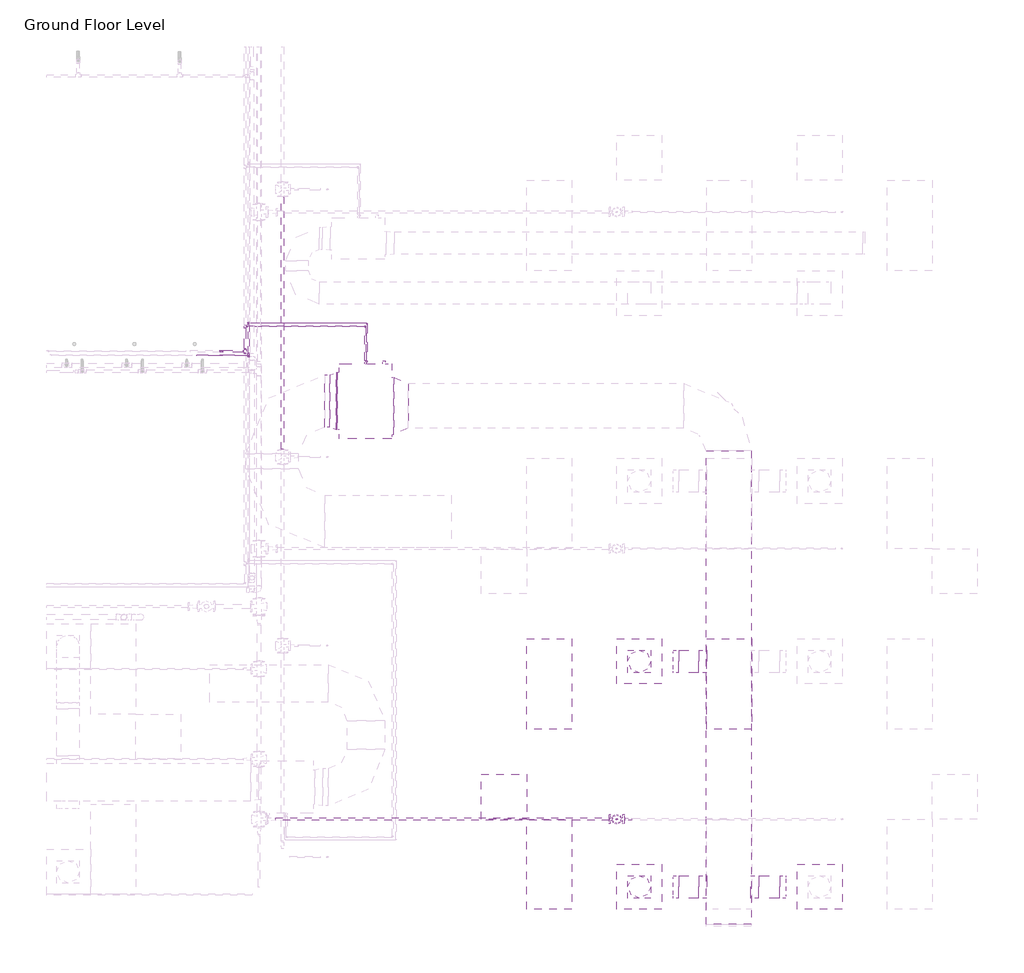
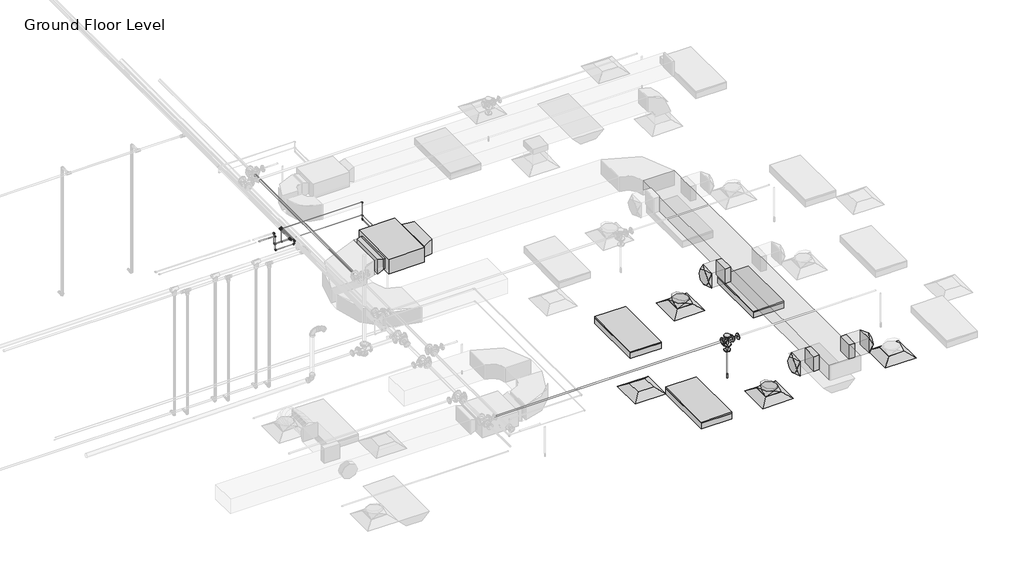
# One storey, part 18 of 74: 22 pipe fittings, 17 pipe segments, 10 duct fittings, 8 duct segments, 4 air terminals, 3 light fixtures, 1 fire suppression terminal, 1 proxy.
"""IFC4 building model written with IfcOpenShell, lengths in millimetres."""

from ifc_helpers import new_model, si_unit, point, frame, frame_2d, origin, place, context, project, spatial, polyline, circle_curve, ellipse_curve, trimmed, segment, composite_curve, outline, extrude, transform, mapped, element, save
from ifc_brep_helpers import plane_surface, cylinder_surface, advanced_brep
from components import m_return_diffuser_600_x_600_face_300_x_300_connection_ff221211, fcu_daikin_iu_7e1df382, m_rectangular_takeoff_standard_cb0ccb98, m_rectangular_takeoff_standard_2be5eba1, m_rectangular_transition_angle_45_degree_93a96896, m_rectangular_transition_angle_45_degree_f6cc18ae, m_rectangular_to_round_transition_angle_45_degree_641efff0, m_sprinkler_dry_pendent_hosted_15_mm_dry_pendent_9bda8e11, m_troffer_light_parabolic_rectangular1_0600x1200mm_4_lamp_86473d4a, m_elbow_generic_standard_a088f956, m_elbow_generic_standard_2a704253, m_elbow_generic_standard_73005802, m_elbow_generic_standard_bb5ffebe, m_reducer_flanged_cs_class_150_standard_ccf252ad, m_tee_generic_standard_5b2ed4d4, m_tee_generic_standard_cdc1cff5, m_tee_generic_standard_5078887e, m_tee_generic_standard_bbfc025c, m_tee_round_base_flanged_cs_class_150_standard_7e5987a1, m_transition_generic_standard_6dc712c0, m_transition_generic_standard_2351da66, m_transition_generic_standard_44e35838, m_transition_generic_standard_22c7c9f4, m_transition_generic_standard_2d362458

model = new_model("IFC4")

# Units and contexts
model_context = context("Model", 3, world=origin())
ifc_project = project(units=[si_unit("LENGTHUNIT", "METRE", prefix="MILLI")], contexts=[model_context])

# Site, building, storey
site = spatial("IfcSite", under=ifc_project)
building = spatial("IfcBuilding", under=site)
storey = spatial("IfcBuildingStorey", under=building, Name="Ground Floor Level", Elevation=900.0)

# Air terminals
placement = place(None, origin())
m_return_diffuser_600_x_600_face_300_x_300_connection_shape = m_return_diffuser_600_x_600_face_300_x_300_connection_ff221211(model_context)
element("IfcAirTerminal", 1, ObjectType="M_Return Diffuser : 600 x 600 Face 300 x 300 Connection", at=placement, inside=storey, context=model_context, shape_type="MappedRepresentation", body=[
    mapped(m_return_diffuser_600_x_600_face_300_x_300_connection_shape, transform((8943.0482736, -38564.7846466, 3650.0), x_axis=(1.0, 0.0, 0.0), y_axis=(0.0, 1.0, 0.0), z_axis=(0.0, 0.0, 1.0))),
])
element("IfcAirTerminal", 2, ObjectType="M_Supply Diffuser : 600 x 600 Face 300 x 300 Connection", at=placement, inside=storey, context=model_context, shape_type="MappedRepresentation", body=[
    mapped(m_return_diffuser_600_x_600_face_300_x_300_connection_shape, transform((10742.7672395, -39764.7846466, 3650.0), x_axis=(1.0, 0.0, 0.0), y_axis=(0.0, 1.0, 0.0), z_axis=(0.0, 0.0, 1.0))),
])
element("IfcAirTerminal", 3, ObjectType="M_Supply Diffuser : 600 x 600 Face 300 x 300 Connection", at=placement, inside=storey, context=model_context, shape_type="MappedRepresentation", body=[
    mapped(m_return_diffuser_600_x_600_face_300_x_300_connection_shape, transform((13142.7672395, -39764.7846466, 3650.0), x_axis=(1.0, 0.0, 0.0), y_axis=(0.0, 1.0, 0.0), z_axis=(0.0, 0.0, 1.0))),
])
element("IfcAirTerminal", 4, ObjectType="M_Supply Diffuser : 600 x 600 Face 300 x 300 Connection", at=placement, inside=storey, context=model_context, shape_type="MappedRepresentation", body=[
    mapped(m_return_diffuser_600_x_600_face_300_x_300_connection_shape, transform((10742.7672395, -36764.7846466, 3650.0), x_axis=(1.0, 0.0, 0.0), y_axis=(0.0, 1.0, 0.0), z_axis=(0.0, 0.0, 1.0))),
])

# Proxy
fcu_daikin_iu_shape = fcu_daikin_iu_7e1df382(model_context)
element("IfcBuildingElementProxy", 5, Name="FCU-DAIKIN IU : 7.2kW, 230V/50Hz/1Ph", ObjectType="FCU-DAIKIN IU : 7.2kW, 230V/50Hz/1Ph", at=placement, inside=storey, context=model_context, shape_type="MappedRepresentation", body=[
    mapped(fcu_daikin_iu_shape, transform((7098.4644074, -33301.2726336, 3934.0875), x_axis=(0.0, 1.0, 0.0), y_axis=(-1.0, 0.0, 0.0), z_axis=(0.0, 0.0, 1.0))),
])

# Duct fittings
m_rectangular_takeoff_standard_shape = m_rectangular_takeoff_standard_cb0ccb98(model_context)
element("IfcDuctFitting", 6, ObjectType="M_Rectangular Takeoff : Standard", at=placement, inside=storey, context=model_context, shape_type="MappedRepresentation", body=[
    mapped(m_rectangular_takeoff_standard_shape, transform((12233.8644074, -39764.7846466, 4099.9875), x_axis=(1.0, 0.0, 0.0), y_axis=(0.0, -1.0, 0.0), z_axis=(0.0, 0.0, -1.0))),
])
m_rectangular_takeoff_standard_2_shape = m_rectangular_takeoff_standard_2be5eba1(model_context)
element("IfcDuctFitting", 7, ObjectType="M_Rectangular Takeoff : Standard", at=placement, inside=storey, context=model_context, shape_type="MappedRepresentation", body=[
    mapped(m_rectangular_takeoff_standard_2_shape, transform((11633.8644074, -36764.7846466, 4099.9875), x_axis=(-1.0, 0.0, 0.0), y_axis=(0.0, 1.0, 0.0), z_axis=(0.0, 0.0, -1.0))),
])
element("IfcDuctFitting", 8, ObjectType="M_Rectangular Takeoff : Standard", at=placement, inside=storey, context=model_context, shape_type="MappedRepresentation", body=[
    mapped(m_rectangular_takeoff_standard_2_shape, transform((11633.8644074, -39764.7846466, 4099.9875), x_axis=(-1.0, 0.0, 0.0), y_axis=(0.0, 1.0, 0.0), z_axis=(0.0, 0.0, -1.0))),
])
m_rectangular_transition_angle_45_degree_shape = m_rectangular_transition_angle_45_degree_93a96896(model_context)
element("IfcDuctFitting", 9, ObjectType="M_Rectangular Transition - Angle : 45 Degree", at=placement, inside=storey, context=model_context, shape_type="MappedRepresentation", body=[
    mapped(m_rectangular_transition_angle_45_degree_shape, transform((7473.8644074, -33364.7726336, 4100.0), x_axis=(1.0, 0.0, 0.0), y_axis=(0.0, 1.0, 0.0), z_axis=(0.0, 0.0, 1.0))),
])
m_rectangular_transition_angle_45_degree_2_shape = m_rectangular_transition_angle_45_degree_f6cc18ae(model_context)
element("IfcDuctFitting", 10, ObjectType="M_Rectangular Transition - Angle : 45 Degree", at=placement, inside=storey, context=model_context, shape_type="MappedRepresentation", body=[
    mapped(m_rectangular_transition_angle_45_degree_2_shape, transform((6711.4162578, -33301.2726336, 4075.2908943), x_axis=(-0.9999999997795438, 0.0, 2.0997916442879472e-05), y_axis=(0.0, -1.0, 0.0), z_axis=(2.0997916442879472e-05, 0.0, 0.9999999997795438))),
])
m_rectangular_to_round_transition_angle_45_degree_shape = m_rectangular_to_round_transition_angle_45_degree_641efff0(model_context)
element("IfcDuctFitting", 11, ObjectType="M_Rectangular to Round Transition - Angle : 45 Degree", at=placement, inside=storey, context=model_context, shape_type="MappedRepresentation", body=[
    mapped(m_rectangular_to_round_transition_angle_45_degree_shape, transform((10742.7672395, -36764.7846466, 3751.6), x_axis=(0.0, 0.0, 1.0), y_axis=(-1.0, 0.0, 0.0), z_axis=(0.0, -1.0, 0.0))),
])
element("IfcDuctFitting", 12, ObjectType="M_Rectangular to Round Transition - Angle : 45 Degree", at=placement, inside=storey, context=model_context, shape_type="MappedRepresentation", body=[
    mapped(m_rectangular_to_round_transition_angle_45_degree_shape, transform((11270.1156708, -36764.7846466, 4099.9875), x_axis=(-1.0, 0.0, 0.0), y_axis=(0.0, -1.0, 0.0), z_axis=(0.0, 0.0, 1.0))),
])
element("IfcDuctFitting", 13, ObjectType="M_Rectangular to Round Transition - Angle : 45 Degree", at=placement, inside=storey, context=model_context, shape_type="MappedRepresentation", body=[
    mapped(m_rectangular_to_round_transition_angle_45_degree_shape, transform((10742.7672395, -39764.7846466, 3751.6), x_axis=(0.0, 0.0, 1.0), y_axis=(-1.0, 0.0, 0.0), z_axis=(0.0, -1.0, 0.0))),
])
element("IfcDuctFitting", 14, ObjectType="M_Rectangular to Round Transition - Angle : 45 Degree", at=placement, inside=storey, context=model_context, shape_type="MappedRepresentation", body=[
    mapped(m_rectangular_to_round_transition_angle_45_degree_shape, transform((11270.1156708, -39764.7846466, 4099.9875), x_axis=(-1.0, 0.0, 0.0), y_axis=(0.0, -1.0, 0.0), z_axis=(0.0, 0.0, 1.0))),
])
element("IfcDuctFitting", 15, ObjectType="M_Rectangular to Round Transition - Angle : 45 Degree", at=placement, inside=storey, context=model_context, shape_type="MappedRepresentation", body=[
    mapped(m_rectangular_to_round_transition_angle_45_degree_shape, transform((12615.4188082, -39764.7846466, 4099.9875), x_axis=(1.0, 0.0, 0.0), y_axis=(0.0, 1.0, 0.0), z_axis=(0.0, 0.0, 1.0))),
])

# Duct segments
element("IfcDuctSegment", 16, ObjectType="Flex - Round", at=placement, inside=storey, context=model_context, shape_type="AdvancedBrep", body=[
    advanced_brep(
    [(10892.7672395, -36764.7846466, 3826.6), (10742.7672395, -36914.7846466, 3826.6), (10592.7672395, -36764.7846466, 3826.6), (10742.7672395, -36614.7846466, 3826.6), (10892.7672395, -36764.7846466, 3829.8098344), (10742.7672395, -36614.7846466, 3864.5152119), (10592.7672395, -36764.7846466, 3899.2205895), (10742.7672395, -36914.7846466, 3864.5152119)],
    [
        (0, 1, circle_curve(frame((10742.7672395, -36764.7846466, 3826.6), z_axis=(0.0, 0.0, -1.0), x_axis=(1.0, 0.0, 0.0)), 150.0)),
        (1, 2, circle_curve(frame((10742.7672395, -36764.7846466, 3826.6), z_axis=(0.0, 0.0, -1.0), x_axis=(1.0, 0.0, 0.0)), 150.0)),
        (2, 3, circle_curve(frame((10742.7672395, -36764.7846466, 3826.6), z_axis=(0.0, 0.0, -1.0), x_axis=(1.0, 0.0, 0.0)), 150.0)),
        (3, 0, circle_curve(frame((10742.7672395, -36764.7846466, 3826.6), z_axis=(0.0, 0.0, -1.0), x_axis=(1.0, 0.0, 0.0)), 150.0)),
        (4, 5, ellipse_curve(frame((10742.7672395, -36764.7846466, 3864.5152119), z_axis=(0.22541442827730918, 0.0, 0.9742629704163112), x_axis=(0.9742629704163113, 0.0, -0.2254144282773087)), 153.9625384, 150.0)),
        (5, 6, ellipse_curve(frame((10742.7672395, -36764.7846466, 3864.5152119), z_axis=(0.22541442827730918, 0.0, 0.9742629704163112), x_axis=(0.9742629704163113, 0.0, -0.2254144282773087)), 153.9625384, 150.0)),
        (6, 7, ellipse_curve(frame((10742.7672395, -36764.7846466, 3864.5152119), z_axis=(0.22541442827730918, 0.0, 0.9742629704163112), x_axis=(0.9742629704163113, 0.0, -0.2254144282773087)), 153.9625384, 150.0)),
        (7, 4, ellipse_curve(frame((10742.7672395, -36764.7846466, 3864.5152119), z_axis=(0.22541442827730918, 0.0, 0.9742629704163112), x_axis=(0.9742629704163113, 0.0, -0.2254144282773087)), 153.9625384, 150.0)),
        (0, 4),
        (7, 1),
        (6, 2),
        (5, 3),
    ],
    [
        plane_surface(frame((10742.7672395, -36914.7846466, 3826.6), z_axis=(0.0, 0.0, -1.0), x_axis=(1.0, 0.0, 0.0))),
        plane_surface(frame((10742.7672395, -36914.7846466, 3864.5152119), z_axis=(0.22541442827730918, 0.0, 0.9742629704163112), x_axis=(0.9742629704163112, 0.0, -0.22541442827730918))),
        cylinder_surface(frame((10742.7672395, -36764.7846466, 3826.6), z_axis=(0.0, 0.0, -1.0), x_axis=(1.0, 0.0, 0.0)), 150.0),
    ],
    [
        (0, [[1, 2, 3, 4]]),
        (1, [[5, 6, 7, 8]]),
        (2, [[-1, 9, -8, 10]]),
        (2, [[-2, -10, -7, 11]]),
        (2, [[-3, -11, -6, 12]]),
        (2, [[-4, -12, -5, -9]]),
    ],
),
])
element("IfcDuctSegment", 17, ObjectType="Flex - Round", at=placement, inside=storey, context=model_context, shape_type="AdvancedBrep", body=[
    advanced_brep(
    [(10892.7672395, -39764.7846466, 3826.6), (10742.7672395, -39914.7846466, 3826.6), (10592.7672395, -39764.7846466, 3826.6), (10742.7672395, -39614.7846466, 3826.6), (10892.7672395, -39764.7846466, 3829.8098344), (10742.7672395, -39614.7846466, 3864.5152119), (10592.7672395, -39764.7846466, 3899.2205895), (10742.7672395, -39914.7846466, 3864.5152119)],
    [
        (0, 1, circle_curve(frame((10742.7672395, -39764.7846466, 3826.6), z_axis=(0.0, 0.0, -1.0), x_axis=(1.0, 0.0, 0.0)), 150.0)),
        (1, 2, circle_curve(frame((10742.7672395, -39764.7846466, 3826.6), z_axis=(0.0, 0.0, -1.0), x_axis=(1.0, 0.0, 0.0)), 150.0)),
        (2, 3, circle_curve(frame((10742.7672395, -39764.7846466, 3826.6), z_axis=(0.0, 0.0, -1.0), x_axis=(1.0, 0.0, 0.0)), 150.0)),
        (3, 0, circle_curve(frame((10742.7672395, -39764.7846466, 3826.6), z_axis=(0.0, 0.0, -1.0), x_axis=(1.0, 0.0, 0.0)), 150.0)),
        (4, 5, ellipse_curve(frame((10742.7672395, -39764.7846466, 3864.5152119), z_axis=(0.22541442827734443, 0.0, 0.9742629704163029), x_axis=(0.9742629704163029, 0.0, -0.22541442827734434)), 153.9625384, 150.0)),
        (5, 6, ellipse_curve(frame((10742.7672395, -39764.7846466, 3864.5152119), z_axis=(0.22541442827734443, 0.0, 0.9742629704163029), x_axis=(0.9742629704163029, 0.0, -0.22541442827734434)), 153.9625384, 150.0)),
        (6, 7, ellipse_curve(frame((10742.7672395, -39764.7846466, 3864.5152119), z_axis=(0.22541442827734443, 0.0, 0.9742629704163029), x_axis=(0.9742629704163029, 0.0, -0.22541442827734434)), 153.9625384, 150.0)),
        (7, 4, ellipse_curve(frame((10742.7672395, -39764.7846466, 3864.5152119), z_axis=(0.22541442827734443, 0.0, 0.9742629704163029), x_axis=(0.9742629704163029, 0.0, -0.22541442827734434)), 153.9625384, 150.0)),
        (0, 4),
        (7, 1),
        (6, 2),
        (5, 3),
    ],
    [
        plane_surface(frame((10742.7672395, -39914.7846466, 3826.6), z_axis=(0.0, 0.0, -1.0), x_axis=(1.0, 0.0, 0.0))),
        plane_surface(frame((10742.7672395, -39914.7846466, 3864.5152119), z_axis=(0.22541442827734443, 0.0, 0.9742629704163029), x_axis=(0.9742629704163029, 0.0, -0.22541442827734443))),
        cylinder_surface(frame((10742.7672395, -39764.7846466, 3826.6), z_axis=(0.0, 0.0, -1.0), x_axis=(1.0, 0.0, 0.0)), 150.0),
    ],
    [
        (0, [[1, 2, 3, 4]]),
        (1, [[5, 6, 7, 8]]),
        (2, [[-1, 9, -8, 10]]),
        (2, [[-2, -10, -7, 11]]),
        (2, [[-3, -11, -6, 12]]),
        (2, [[-4, -12, -5, -9]]),
    ],
),
])
element("IfcDuctSegment", 18, ObjectType="Radius Elbows / Taps", at=placement, inside=storey, context=model_context, shape_type="SweptSolid", body=[
    extrude(outline(polyline([(11633.8644074, -33964.7726336), (12233.8644074, -33964.7726336), (12233.8644074, -40264.7726336), (11633.8644074, -40264.7726336), (11633.8644074, -33964.7726336)])), frame((0.0, 0.0, 3949.9875), z_axis=(0.0, 0.0, 1.0), x_axis=(1.0, 0.0, 0.0)), (0.0, 0.0, 1.0), 300.0),
])
element("IfcDuctSegment", 19, ObjectType="Radius Elbows / Taps", at=placement, inside=storey, context=model_context, shape_type="SweptSolid", body=[
    extrude(outline(polyline([(11532.2644074, -36614.7846466), (11532.2644074, -36914.7846466), (11270.1156708, -36914.7846466), (11270.1156708, -36614.7846466), (11532.2644074, -36614.7846466)])), frame((0.0, 0.0, 3949.9875), z_axis=(0.0, 0.0, 1.0), x_axis=(1.0, 0.0, 0.0)), (0.0, 0.0, 1.0), 300.0),
])
element("IfcDuctSegment", 20, ObjectType="Radius Elbows / Taps", at=placement, inside=storey, context=model_context, shape_type="SweptSolid", body=[
    extrude(outline(polyline([(11532.2644074, -39614.7846466), (11532.2644074, -39914.7846466), (11270.1156708, -39914.7846466), (11270.1156708, -39614.7846466), (11532.2644074, -39614.7846466)])), frame((0.0, 0.0, 3949.9875), z_axis=(0.0, 0.0, 1.0), x_axis=(1.0, 0.0, 0.0)), (0.0, 0.0, 1.0), 300.0),
])
element("IfcDuctSegment", 21, ObjectType="Radius Elbows / Taps", at=placement, inside=storey, context=model_context, shape_type="SweptSolid", body=[
    extrude(outline(polyline([(12335.4644074, -39914.7846466), (12335.4644074, -39614.7846466), (12615.4188082, -39614.7846466), (12615.4188082, -39914.7846466), (12335.4644074, -39914.7846466)])), frame((0.0, 0.0, 3949.9875), z_axis=(0.0, 0.0, 1.0), x_axis=(1.0, 0.0, 0.0)), (0.0, 0.0, 1.0), 300.0),
])
element("IfcDuctSegment", 22, ObjectType="Radius Elbows / Taps", at=placement, inside=storey, context=model_context, shape_type="SweptSolid", body=[
    extrude(outline(polyline([(0.0, -761.875), (0.0, 0.0), (11.6481501, 0.0), (11.6481501, -761.875), (0.0, -761.875)])), frame((6711.3850343, -32920.3351336, 3968.1408988), z_axis=(0.00029140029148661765, 0.0, 0.9999999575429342), x_axis=(0.9999999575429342, 0.0, -0.00029140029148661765)), (0.0, 0.0, 1.0), 214.3),
])
element("IfcDuctSegment", 23, ObjectType="Radius Elbows / Taps", at=placement, inside=storey, context=model_context, shape_type="SweptSolid", body=[
    extrude(outline(polyline([(6557.7672394, -33651.2726336), (6557.7672394, -32951.2726336), (6625.7187526, -32951.2726336), (6625.7187526, -33651.2726336), (6557.7672394, -33651.2726336)])), frame((0.0, 0.0, 3882.4375), z_axis=(0.0, 0.0, 1.0), x_axis=(1.0, 0.0, 0.0)), (0.0, 0.0, 1.0), 300.0),
])

# Fire suppression terminal
m_sprinkler_dry_pendent_hosted_15_mm_dry_pendent_shape = m_sprinkler_dry_pendent_hosted_15_mm_dry_pendent_9bda8e11(model_context)
element("IfcFireSuppressionTerminal", 24, ObjectType="M_Sprinkler - Dry - Pendent - Hosted : 15 mm Dry Pendent", at=placement, inside=storey, context=model_context, shape_type="MappedRepresentation", body=[
    mapped(m_sprinkler_dry_pendent_hosted_15_mm_dry_pendent_shape, transform((10443.0482736, -38864.7846466, 3650.0), x_axis=(1.0, 0.0, 0.0), y_axis=(0.0, -1.0, 0.0), z_axis=(0.0, 0.0, -1.0))),
])

# Light fixtures
m_troffer_light_parabolic_rectangular1_0600x1200mm_4_lamp_shape = m_troffer_light_parabolic_rectangular1_0600x1200mm_4_lamp_86473d4a(model_context)
element("IfcLightFixture", 25, ObjectType="M_Troffer Light - Parabolic Rectangular1 : 0600x1200mm(4 Lamp) - 277V 2", at=placement, inside=storey, context=model_context, shape_type="MappedRepresentation", body=[
    mapped(m_troffer_light_parabolic_rectangular1_0600x1200mm_4_lamp_shape, transform((9483.5823415, -37046.0811451, 3650.0), x_axis=(0.0, 1.0, 0.0), y_axis=(-1.0, 0.0, 0.0), z_axis=(0.0, 0.0, 1.0))),
])
element("IfcLightFixture", 26, ObjectType="M_Troffer Light - Parabolic Rectangular1 : 0600x1200mm(4 Lamp) - 277V 2", at=placement, inside=storey, context=model_context, shape_type="MappedRepresentation", body=[
    mapped(m_troffer_light_parabolic_rectangular1_0600x1200mm_4_lamp_shape, transform((9483.5823415, -39446.0811451, 3650.0), x_axis=(0.0, 1.0, 0.0), y_axis=(-1.0, 0.0, 0.0), z_axis=(0.0, 0.0, 1.0))),
])
element("IfcLightFixture", 27, ObjectType="M_Troffer Light - Parabolic Rectangular1 : 0600x1200mm(4 Lamp) - 277V 2", at=placement, inside=storey, context=model_context, shape_type="MappedRepresentation", body=[
    mapped(m_troffer_light_parabolic_rectangular1_0600x1200mm_4_lamp_shape, transform((11883.5823415, -37046.0811451, 3650.0), x_axis=(0.0, 1.0, 0.0), y_axis=(-1.0, 0.0, 0.0), z_axis=(0.0, 0.0, 1.0))),
])

# Pipe fittings
m_elbow_generic_standard_shape = m_elbow_generic_standard_a088f956(model_context)
element("IfcPipeFitting", 28, ObjectType="M_Elbow - Generic : Standard", at=placement, inside=storey, context=model_context, shape_type="MappedRepresentation", body=[
    mapped(m_elbow_generic_standard_shape, transform((7098.4644074, -32307.4513653, 4390.0), x_axis=(1.0, 0.0, 0.0), y_axis=(0.0, 0.0, -1.0), z_axis=(0.0, 1.0, 0.0))),
])
element("IfcPipeFitting", 29, ObjectType="M_Elbow - Generic : Standard", at=placement, inside=storey, context=model_context, shape_type="MappedRepresentation", body=[
    mapped(m_elbow_generic_standard_shape, transform((7098.4644074, -32307.4513653, 4034.0875), x_axis=(0.0, 0.0, -1.0), y_axis=(0.0, -1.0, 0.0), z_axis=(-1.0, 0.0, 0.0))),
])
m_elbow_generic_standard_2_shape = m_elbow_generic_standard_2a704253(model_context)
element("IfcPipeFitting", 30, ObjectType="M_Elbow - Generic : Standard", at=placement, inside=storey, context=model_context, shape_type="MappedRepresentation", body=[
    mapped(m_elbow_generic_standard_2_shape, transform((7123.4644074, -32264.9316535, 4084.8875), x_axis=(0.0, 1.0, 0.0), y_axis=(-0.9999999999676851, 0.0, 8.039269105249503e-06), z_axis=(8.039269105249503e-06, 0.0, 0.9999999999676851))),
])
element("IfcPipeFitting", 31, ObjectType="M_Elbow - Generic : Standard", at=placement, inside=storey, context=model_context, shape_type="MappedRepresentation", body=[
    mapped(m_elbow_generic_standard_2_shape, transform((5543.9904113, -32264.9316538, 4084.9001978), x_axis=(0.0, 0.0, -1.0), y_axis=(1.0, 0.0, 0.0), z_axis=(0.0, -1.0, 0.0))),
])
m_elbow_generic_standard_3_shape = m_elbow_generic_standard_73005802(model_context)
element("IfcPipeFitting", 32, ObjectType="M_Elbow - Generic : Standard", at=placement, inside=storey, context=model_context, shape_type="MappedRepresentation", body=[
    mapped(m_elbow_generic_standard_3_shape, transform((5183.4438829, -32638.716218, 4390.0), x_axis=(-1.0, 0.0, 0.0), y_axis=(0.0, 0.0, 1.0), z_axis=(0.0, 1.0, 0.0))),
])
element("IfcPipeFitting", 33, ObjectType="M_Elbow - Generic : Standard", at=placement, inside=storey, context=model_context, shape_type="MappedRepresentation", body=[
    mapped(m_elbow_generic_standard_3_shape, transform((5183.4438829, -32638.716218, 4621.4908765), x_axis=(0.0, 0.0, 1.0), y_axis=(-1.0, 0.0, 0.0), z_axis=(0.0, -1.0, 0.0))),
])
m_elbow_generic_standard_4_shape = m_elbow_generic_standard_bb5ffebe(model_context)
element("IfcPipeFitting", 34, ObjectType="M_Elbow - Generic : Standard", at=placement, inside=storey, context=model_context, shape_type="MappedRepresentation", body=[
    mapped(m_elbow_generic_standard_4_shape, transform((5176.1749541, -32691.5527522, 4591.0863665), x_axis=(0.0, 0.0, 1.0), y_axis=(-1.0, 0.0, 0.0), z_axis=(0.0, -1.0, 0.0))),
])
element("IfcPipeFitting", 35, ObjectType="M_Elbow - Generic : Standard", at=placement, inside=storey, context=model_context, shape_type="MappedRepresentation", body=[
    mapped(m_elbow_generic_standard_4_shape, transform((5543.9904113, -32691.5527522, 4300.0), x_axis=(0.0, 0.0, -1.0), y_axis=(-1.0, 0.0, 0.0), z_axis=(0.0, 1.0, 0.0))),
])
element("IfcPipeFitting", 36, ObjectType="M_Elbow - Generic : Standard", at=placement, inside=storey, context=model_context, shape_type="MappedRepresentation", body=[
    mapped(m_elbow_generic_standard_4_shape, transform((5176.1749541, -32691.5527522, 4300.0), x_axis=(0.0, 0.0, -1.0), y_axis=(1.0, 0.0, 0.0), z_axis=(0.0, -1.0, 0.0))),
])
m_reducer_flanged_cs_class_150_standard_shape = m_reducer_flanged_cs_class_150_standard_ccf252ad(model_context)
element("IfcPipeFitting", 37, ObjectType="M_Reducer - Flanged - CS - Class 150 : Standard", at=placement, inside=storey, context=model_context, shape_type="MappedRepresentation", body=[
    mapped(m_reducer_flanged_cs_class_150_standard_shape, transform((10543.7568674, -38864.7846466, 4347.5), x_axis=(1.0, 0.0, 0.0), y_axis=(0.0, 0.0, 1.0), z_axis=(0.0, -1.0, 0.0))),
])
element("IfcPipeFitting", 38, ObjectType="M_Reducer - Flanged - CS - Class 150 : Standard", at=placement, inside=storey, context=model_context, shape_type="MappedRepresentation", body=[
    mapped(m_reducer_flanged_cs_class_150_standard_shape, transform((10443.0482736, -38864.7846466, 4246.7914062), x_axis=(0.0, 0.0, -1.0), y_axis=(-1.0, 0.0, 0.0), z_axis=(0.0, 1.0, 0.0))),
])
m_tee_generic_standard_shape = m_tee_generic_standard_5b2ed4d4(model_context)
element("IfcPipeFitting", 39, ObjectType="M_Tee - Generic : Standard", at=placement, inside=storey, context=model_context, shape_type="MappedRepresentation", body=[
    mapped(m_tee_generic_standard_shape, transform((5543.9904113, -32264.9316538, 4377.5), x_axis=(0.0, -1.0, 0.0), y_axis=(0.0, 0.0, 1.0), z_axis=(-1.0, 0.0, 0.0))),
])
m_tee_generic_standard_2_shape = m_tee_generic_standard_cdc1cff5(model_context)
element("IfcPipeFitting", 40, ObjectType="M_Tee - Generic : Standard", at=placement, inside=storey, context=model_context, shape_type="MappedRepresentation", body=[
    mapped(m_tee_generic_standard_2_shape, transform((5543.9904113, -32691.5527522, 4377.5), x_axis=(0.0, -1.0, 0.0), y_axis=(0.0, 0.0, 1.0), z_axis=(-1.0, 0.0, 0.0))),
])
m_tee_generic_standard_3_shape = m_tee_generic_standard_5078887e(model_context)
element("IfcPipeFitting", 41, ObjectType="M_Tee - Generic : Standard", at=placement, inside=storey, context=model_context, shape_type="MappedRepresentation", body=[
    mapped(m_tee_generic_standard_3_shape, transform((5497.8951827, -32307.4513653, 4390.0), x_axis=(0.0, -1.0, 0.0), y_axis=(-1.0, 0.0, 0.0), z_axis=(0.0, 0.0, -1.0))),
])
m_tee_generic_standard_4_shape = m_tee_generic_standard_bbfc025c(model_context)
element("IfcPipeFitting", 42, ObjectType="M_Tee - Generic : Standard", at=placement, inside=storey, context=model_context, shape_type="MappedRepresentation", body=[
    mapped(m_tee_generic_standard_4_shape, transform((5497.8951827, -32638.716218, 4390.0), x_axis=(0.0, -1.0, 0.0), y_axis=(1.0, 0.0, 0.0), z_axis=(0.0, 0.0, 1.0))),
])
m_tee_round_base_flanged_cs_class_150_standard_shape = m_tee_round_base_flanged_cs_class_150_standard_7e5987a1(model_context)
element("IfcPipeFitting", 43, ObjectType="M_Tee Round Base - Flanged - CS - Class 150 : Standard", at=placement, inside=storey, context=model_context, shape_type="MappedRepresentation", body=[
    mapped(m_tee_round_base_flanged_cs_class_150_standard_shape, transform((10443.0482736, -38864.7846466, 4347.5), x_axis=(1.0, 0.0, 0.0), y_axis=(0.0, 0.0, 1.0), z_axis=(0.0, -1.0, 0.0))),
])
m_transition_generic_standard_shape = m_transition_generic_standard_6dc712c0(model_context)
element("IfcPipeFitting", 44, ObjectType="M_Transition - Generic : Standard", at=placement, inside=storey, context=model_context, shape_type="MappedRepresentation", body=[
    mapped(m_transition_generic_standard_shape, transform((5543.9904113, -32669.3277522, 4377.5), x_axis=(0.0, 1.0, 0.0), y_axis=(-1.0, 0.0, 0.0), z_axis=(0.0, 0.0, 1.0))),
])
element("IfcPipeFitting", 45, ObjectType="M_Transition - Generic : Standard", at=placement, inside=storey, context=model_context, shape_type="MappedRepresentation", body=[
    mapped(m_transition_generic_standard_shape, transform((5543.9904113, -32713.7777522, 4377.5), x_axis=(0.0, -1.0, 0.0), y_axis=(1.0, 0.0, 0.0), z_axis=(0.0, 0.0, 1.0))),
])
m_transition_generic_standard_2_shape = m_transition_generic_standard_2351da66(model_context)
element("IfcPipeFitting", 46, ObjectType="M_Transition - Generic : Standard", at=placement, inside=storey, context=model_context, shape_type="MappedRepresentation", body=[
    mapped(m_transition_generic_standard_2_shape, transform((5497.8951827, -32613.316218, 4390.0), x_axis=(0.0, 1.0, 0.0), y_axis=(-1.0, 0.0, 0.0), z_axis=(0.0, 0.0, 1.0))),
])
m_transition_generic_standard_3_shape = m_transition_generic_standard_44e35838(model_context)
element("IfcPipeFitting", 47, ObjectType="M_Transition - Generic : Standard", at=placement, inside=storey, context=model_context, shape_type="MappedRepresentation", body=[
    mapped(m_transition_generic_standard_3_shape, transform((5521.7076827, -32307.4513653, 4390.0), x_axis=(1.0, 0.0, 0.0), y_axis=(0.0, 1.0, 0.0), z_axis=(0.0, 0.0, 1.0))),
])
m_transition_generic_standard_4_shape = m_transition_generic_standard_22c7c9f4(model_context)
element("IfcPipeFitting", 48, ObjectType="M_Transition - Generic : Standard", at=placement, inside=storey, context=model_context, shape_type="MappedRepresentation", body=[
    mapped(m_transition_generic_standard_4_shape, transform((5497.8951827, -32664.116218, 4390.0), x_axis=(0.0, -1.0, 0.0), y_axis=(1.0, 0.0, 0.0), z_axis=(0.0, 0.0, 1.0))),
])
m_transition_generic_standard_5_shape = m_transition_generic_standard_2d362458(model_context)
element("IfcPipeFitting", 49, ObjectType="M_Transition - Generic : Standard", at=placement, inside=storey, context=model_context, shape_type="MappedRepresentation", body=[
    mapped(m_transition_generic_standard_5_shape, transform((5543.9904113, -32264.9316538, 4356.8625), x_axis=(0.0, 0.0, -1.0), y_axis=(1.0, 0.0, 0.0), z_axis=(0.0, -1.0, 0.0))),
])

# Pipe segments
element("IfcPipeSegment", 50, ObjectType="Copper", at=placement, inside=storey, context=model_context, shape_type="SweptSolid", body=[
    extrude(outline(composite_curve([segment(trimmed(circle_curve(frame_2d((-32638.716218, 4390.0)), 11.5), [point((-32650.216218, 4390.0))], [point((-32638.716218, 4401.5))], False, "CARTESIAN"), True, "CONTINUOUS"), segment(trimmed(circle_curve(frame_2d((-32638.716218, 4390.0)), 11.5), [point((-32638.716218, 4401.5))], [point((-32627.216218, 4390.0))], False, "CARTESIAN"), True, "CONTINUOUS"), segment(trimmed(circle_curve(frame_2d((-32638.716218, 4390.0)), 11.5), [point((-32627.216218, 4390.0))], [point((-32638.716218, 4378.5))], False, "CARTESIAN"), True, "CONTINUOUS"), segment(trimmed(circle_curve(frame_2d((-32638.716218, 4390.0)), 11.5), [point((-32638.716218, 4378.5))], [point((-32650.216218, 4390.0))], False, "CARTESIAN"), True, "CONTINUOUS")], self_intersect=False)), frame((5202.4938829, 0.0, 0.0), z_axis=(1.0, 0.0, 0.0), x_axis=(0.0, 1.0, 0.0)), (0.0, 0.0, 1.0), 270.0012998),
])
element("IfcPipeSegment", 51, ObjectType="Copper", at=placement, inside=storey, context=model_context, shape_type="SweptSolid", body=[
    extrude(outline(composite_curve([segment(trimmed(circle_curve(frame_2d((5176.1749541, -32691.5527522)), 8.1), [point((5168.0749541, -32691.5527522))], [point((5176.1749541, -32683.4527522))], False, "CARTESIAN"), True, "CONTINUOUS"), segment(trimmed(circle_curve(frame_2d((5176.1749541, -32691.5527522)), 8.1), [point((5176.1749541, -32683.4527522))], [point((5184.2749541, -32691.5527522))], False, "CARTESIAN"), True, "CONTINUOUS"), segment(trimmed(circle_curve(frame_2d((5176.1749541, -32691.5527522)), 8.1), [point((5184.2749541, -32691.5527522))], [point((5176.1749541, -32699.6527522))], False, "CARTESIAN"), True, "CONTINUOUS"), segment(trimmed(circle_curve(frame_2d((5176.1749541, -32691.5527522)), 8.1), [point((5176.1749541, -32699.6527522))], [point((5168.0749541, -32691.5527522))], False, "CARTESIAN"), True, "CONTINUOUS")], self_intersect=False)), frame((0.0, 0.0, 4315.875), z_axis=(0.0, 0.0, 1.0), x_axis=(1.0, 0.0, 0.0)), (0.0, 0.0, 1.0), 259.3363665),
])
element("IfcPipeSegment", 52, ObjectType="Copper", at=placement, inside=storey, context=model_context, shape_type="SweptSolid", body=[
    extrude(outline(composite_curve([segment(trimmed(circle_curve(frame_2d((5183.4438829, -32638.716218)), 11.5), [point((5171.9438829, -32638.716218))], [point((5183.4438829, -32627.216218))], False, "CARTESIAN"), True, "CONTINUOUS"), segment(trimmed(circle_curve(frame_2d((5183.4438829, -32638.716218)), 11.5), [point((5183.4438829, -32627.216218))], [point((5194.9438829, -32638.716218))], False, "CARTESIAN"), True, "CONTINUOUS"), segment(trimmed(circle_curve(frame_2d((5183.4438829, -32638.716218)), 11.5), [point((5194.9438829, -32638.716218))], [point((5183.4438829, -32650.216218))], False, "CARTESIAN"), True, "CONTINUOUS"), segment(trimmed(circle_curve(frame_2d((5183.4438829, -32638.716218)), 11.5), [point((5183.4438829, -32650.216218))], [point((5171.9438829, -32638.716218))], False, "CARTESIAN"), True, "CONTINUOUS")], self_intersect=False)), frame((0.0, 0.0, 4409.05), z_axis=(0.0, 0.0, 1.0), x_axis=(1.0, 0.0, 0.0)), (0.0, 0.0, 1.0), 193.3908765),
])
element("IfcPipeSegment", 53, ObjectType="Copper", at=placement, inside=storey, context=model_context, shape_type="SweptSolid", body=[
    extrude(outline(composite_curve([segment(trimmed(circle_curve(frame_2d((-32307.4513653, 4390.0)), 6.5), [point((-32313.9513653, 4390.0))], [point((-32307.4513653, 4396.5))], False, "CARTESIAN"), True, "CONTINUOUS"), segment(trimmed(circle_curve(frame_2d((-32307.4513653, 4390.0)), 6.5), [point((-32307.4513653, 4396.5))], [point((-32300.9513653, 4390.0))], False, "CARTESIAN"), True, "CONTINUOUS"), segment(trimmed(circle_curve(frame_2d((-32307.4513653, 4390.0)), 6.5), [point((-32300.9513653, 4390.0))], [point((-32307.4513653, 4383.5))], False, "CARTESIAN"), True, "CONTINUOUS"), segment(trimmed(circle_curve(frame_2d((-32307.4513653, 4390.0)), 6.5), [point((-32307.4513653, 4383.5))], [point((-32313.9513653, 4390.0))], False, "CARTESIAN"), True, "CONTINUOUS")], self_intersect=False)), frame((5527.2639327, 0.0, 0.0), z_axis=(1.0, 0.0, 0.0), x_axis=(0.0, 1.0, 0.0)), (0.0, 0.0, 1.0), 1556.9129748),
])
element("IfcPipeSegment", 54, ObjectType="Copper", at=placement, inside=storey, context=model_context, shape_type="SweptSolid", body=[
    extrude(outline(composite_curve([segment(trimmed(circle_curve(frame_2d((4390.0, 5497.8951827)), 9.75), [point((4390.0, 5507.6451827))], [point((4399.75, 5497.8951827))], False, "CARTESIAN"), True, "CONTINUOUS"), segment(trimmed(circle_curve(frame_2d((4390.0, 5497.8951827)), 9.75), [point((4399.75, 5497.8951827))], [point((4390.0, 5488.1451827))], False, "CARTESIAN"), True, "CONTINUOUS"), segment(trimmed(circle_curve(frame_2d((4390.0, 5497.8951827)), 9.75), [point((4390.0, 5488.1451827))], [point((4380.25, 5497.8951827))], False, "CARTESIAN"), True, "CONTINUOUS"), segment(trimmed(circle_curve(frame_2d((4390.0, 5497.8951827)), 9.75), [point((4380.25, 5497.8951827))], [point((4390.0, 5507.6451827))], False, "CARTESIAN"), True, "CONTINUOUS")], self_intersect=False)), frame((0.0, -32606.966218, 0.0), z_axis=(0.0, 1.0, 0.0), x_axis=(0.0, 0.0, 1.0)), (0.0, 0.0, 1.0), 275.7023527),
])
element("IfcPipeSegment", 55, ObjectType="Copper", at=placement, inside=storey, context=model_context, shape_type="SweptSolid", body=[
    extrude(outline(composite_curve([segment(trimmed(circle_curve(frame_2d((4034.0875, 7098.4644074)), 6.5), [point((4034.0875, 7091.9644074))], [point((4027.5875, 7098.4644074))], False, "CARTESIAN"), True, "CONTINUOUS"), segment(trimmed(circle_curve(frame_2d((4034.0875, 7098.4644074)), 6.5), [point((4027.5875, 7098.4644074))], [point((4034.0875, 7104.9644074))], False, "CARTESIAN"), True, "CONTINUOUS"), segment(trimmed(circle_curve(frame_2d((4034.0875, 7098.4644074)), 6.5), [point((4034.0875, 7104.9644074))], [point((4040.5875, 7098.4644074))], False, "CARTESIAN"), True, "CONTINUOUS"), segment(trimmed(circle_curve(frame_2d((4034.0875, 7098.4644074)), 6.5), [point((4040.5875, 7098.4644074))], [point((4034.0875, 7091.9644074))], False, "CARTESIAN"), True, "CONTINUOUS")], self_intersect=False)), frame((0.0, -32763.1726336, 0.0), z_axis=(0.0, 1.0, 0.0), x_axis=(0.0, 0.0, 1.0)), (0.0, 0.0, 1.0), 441.4337683),
])
element("IfcPipeSegment", 56, ObjectType="Copper", at=placement, inside=storey, context=model_context, shape_type="SweptSolid", body=[
    extrude(outline(composite_curve([segment(trimmed(circle_curve(frame_2d((4084.8875, 7123.4644074)), 3.35), [point((4084.8875, 7126.8144074))], [point((4088.2375, 7123.4644074))], False, "CARTESIAN"), True, "CONTINUOUS"), segment(trimmed(circle_curve(frame_2d((4084.8875, 7123.4644074)), 3.35), [point((4088.2375, 7123.4644074))], [point((4084.8875, 7120.1144074))], False, "CARTESIAN"), True, "CONTINUOUS"), segment(trimmed(circle_curve(frame_2d((4084.8875, 7123.4644074)), 3.35), [point((4084.8875, 7120.1144074))], [point((4081.5375, 7123.4644074))], False, "CARTESIAN"), True, "CONTINUOUS"), segment(trimmed(circle_curve(frame_2d((4084.8875, 7123.4644074)), 3.35), [point((4081.5375, 7123.4644074))], [point((4084.8875, 7126.8144074))], False, "CARTESIAN"), True, "CONTINUOUS")], self_intersect=False)), frame((0.0, -32763.1726336, 0.0), z_axis=(0.0, 1.0, 0.0), x_axis=(0.0, 0.0, 1.0)), (0.0, 0.0, 1.0), 487.1034801),
])
element("IfcPipeSegment", 57, ObjectType="Copper", at=placement, inside=storey, context=model_context, shape_type="SweptSolid", body=[
    extrude(outline(composite_curve([segment(trimmed(circle_curve(frame_2d((7098.4644074, -32307.4513653)), 6.5), [point((7104.9644074, -32307.4513653))], [point((7098.4644074, -32313.9513653))], False, "CARTESIAN"), True, "CONTINUOUS"), segment(trimmed(circle_curve(frame_2d((7098.4644074, -32307.4513653)), 6.5), [point((7098.4644074, -32313.9513653))], [point((7091.9644074, -32307.4513653))], False, "CARTESIAN"), True, "CONTINUOUS"), segment(trimmed(circle_curve(frame_2d((7098.4644074, -32307.4513653)), 6.5), [point((7091.9644074, -32307.4513653))], [point((7098.4644074, -32300.9513653))], False, "CARTESIAN"), True, "CONTINUOUS"), segment(trimmed(circle_curve(frame_2d((7098.4644074, -32307.4513653)), 6.5), [point((7098.4644074, -32300.9513653))], [point((7104.9644074, -32307.4513653))], False, "CARTESIAN"), True, "CONTINUOUS")], self_intersect=False)), frame((0.0, 0.0, 4048.375), z_axis=(0.0, 0.0, 1.0), x_axis=(1.0, 0.0, 0.0)), (0.0, 0.0, 1.0), 327.3375),
])
element("IfcPipeSegment", 58, ObjectType="Copper", at=placement, inside=storey, context=model_context, shape_type="SweptSolid", body=[
    extrude(outline(composite_curve([segment(trimmed(circle_curve(frame_2d((4377.5, 5543.9904113)), 6.5), [point((4377.5, 5550.4904113))], [point((4384.0, 5543.9904113))], False, "CARTESIAN"), True, "CONTINUOUS"), segment(trimmed(circle_curve(frame_2d((4377.5, 5543.9904113)), 6.5), [point((4384.0, 5543.9904113))], [point((4377.5, 5537.4904113))], False, "CARTESIAN"), True, "CONTINUOUS"), segment(trimmed(circle_curve(frame_2d((4377.5, 5543.9904113)), 6.5), [point((4377.5, 5537.4904113))], [point((4371.0, 5543.9904113))], False, "CARTESIAN"), True, "CONTINUOUS"), segment(trimmed(circle_curve(frame_2d((4377.5, 5543.9904113)), 6.5), [point((4371.0, 5543.9904113))], [point((4377.5, 5550.4904113))], False, "CARTESIAN"), True, "CONTINUOUS")], self_intersect=False)), frame((0.0, -32664.5652522, 0.0), z_axis=(0.0, 1.0, 0.0), x_axis=(0.0, 0.0, 1.0)), (0.0, 0.0, 1.0), 378.9960985),
])
element("IfcPipeSegment", 59, ObjectType="Copper", at=placement, inside=storey, context=model_context, shape_type="SweptSolid", body=[
    extrude(outline(composite_curve([segment(trimmed(circle_curve(frame_2d((-32691.5527522, 4591.0863665)), 8.1), [point((-32683.4527522, 4591.0863665))], [point((-32691.5527522, 4582.9863665))], False, "CARTESIAN"), True, "CONTINUOUS"), segment(trimmed(circle_curve(frame_2d((-32691.5527522, 4591.0863665)), 8.1), [point((-32691.5527522, 4582.9863665))], [point((-32699.6527522, 4591.0863665))], False, "CARTESIAN"), True, "CONTINUOUS"), segment(trimmed(circle_curve(frame_2d((-32691.5527522, 4591.0863665)), 8.1), [point((-32699.6527522, 4591.0863665))], [point((-32691.5527522, 4599.1863665))], False, "CARTESIAN"), True, "CONTINUOUS"), segment(trimmed(circle_curve(frame_2d((-32691.5527522, 4591.0863665)), 8.1), [point((-32691.5527522, 4599.1863665))], [point((-32683.4527522, 4591.0863665))], False, "CARTESIAN"), True, "CONTINUOUS")], self_intersect=False)), frame((4856.6970185, 0.0, 0.0), z_axis=(1.0, 0.0, 0.0), x_axis=(0.0, 1.0, 0.0)), (0.0, 0.0, 1.0), 303.6029356),
])
element("IfcPipeSegment", 60, ObjectType="Copper", at=placement, inside=storey, context=model_context, shape_type="SweptSolid", body=[
    extrude(outline(composite_curve([segment(trimmed(circle_curve(frame_2d((5543.9904113, -32691.5527522)), 8.1), [point((5552.0904113, -32691.5527522))], [point((5543.9904113, -32699.6527522))], False, "CARTESIAN"), True, "CONTINUOUS"), segment(trimmed(circle_curve(frame_2d((5543.9904113, -32691.5527522)), 8.1), [point((5543.9904113, -32699.6527522))], [point((5535.8904113, -32691.5527522))], False, "CARTESIAN"), True, "CONTINUOUS"), segment(trimmed(circle_curve(frame_2d((5543.9904113, -32691.5527522)), 8.1), [point((5535.8904113, -32691.5527522))], [point((5543.9904113, -32683.4527522))], False, "CARTESIAN"), True, "CONTINUOUS"), segment(trimmed(circle_curve(frame_2d((5543.9904113, -32691.5527522)), 8.1), [point((5543.9904113, -32683.4527522))], [point((5552.0904113, -32691.5527522))], False, "CARTESIAN"), True, "CONTINUOUS")], self_intersect=False)), frame((0.0, 0.0, 4315.875), z_axis=(0.0, 0.0, 1.0), x_axis=(1.0, 0.0, 0.0)), (0.0, 0.0, 1.0), 39.4),
])
element("IfcPipeSegment", 61, ObjectType="Copper", at=placement, inside=storey, context=model_context, shape_type="SweptSolid", body=[
    extrude(outline(composite_curve([segment(trimmed(circle_curve(frame_2d((-32691.5527522, 4300.0)), 8.1), [point((-32683.4527522, 4300.0))], [point((-32691.5527522, 4291.9))], False, "CARTESIAN"), True, "CONTINUOUS"), segment(trimmed(circle_curve(frame_2d((-32691.5527522, 4300.0)), 8.1), [point((-32691.5527522, 4291.9))], [point((-32699.6527522, 4300.0))], False, "CARTESIAN"), True, "CONTINUOUS"), segment(trimmed(circle_curve(frame_2d((-32691.5527522, 4300.0)), 8.1), [point((-32699.6527522, 4300.0))], [point((-32691.5527522, 4308.1))], False, "CARTESIAN"), True, "CONTINUOUS"), segment(trimmed(circle_curve(frame_2d((-32691.5527522, 4300.0)), 8.1), [point((-32691.5527522, 4308.1))], [point((-32683.4527522, 4300.0))], False, "CARTESIAN"), True, "CONTINUOUS")], self_intersect=False)), frame((5192.0499541, 0.0, 0.0), z_axis=(1.0, 0.0, 0.0), x_axis=(0.0, 1.0, 0.0)), (0.0, 0.0, 1.0), 336.0654572),
])
element("IfcPipeSegment", 62, ObjectType="Copper", at=placement, inside=storey, context=model_context, shape_type="SweptSolid", body=[
    extrude(outline(composite_curve([segment(trimmed(circle_curve(frame_2d((5543.9904113, -32264.9316538)), 3.35), [point((5547.3404113, -32264.9316538))], [point((5543.9904113, -32268.2816538))], False, "CARTESIAN"), True, "CONTINUOUS"), segment(trimmed(circle_curve(frame_2d((5543.9904113, -32264.9316538)), 3.35), [point((5543.9904113, -32268.2816538))], [point((5540.6404113, -32264.9316538))], False, "CARTESIAN"), True, "CONTINUOUS"), segment(trimmed(circle_curve(frame_2d((5543.9904113, -32264.9316538)), 3.35), [point((5540.6404113, -32264.9316538))], [point((5543.9904113, -32261.5816538))], False, "CARTESIAN"), True, "CONTINUOUS"), segment(trimmed(circle_curve(frame_2d((5543.9904113, -32264.9316538)), 3.35), [point((5543.9904113, -32261.5816538))], [point((5547.3404113, -32264.9316538))], False, "CARTESIAN"), True, "CONTINUOUS")], self_intersect=False)), frame((0.0, 0.0, 4096.0376978), z_axis=(0.0, 0.0, 1.0), x_axis=(1.0, 0.0, 0.0)), (0.0, 0.0, 1.0), 256.8560522),
])
element("IfcPipeSegment", 63, ObjectType="Copper", at=placement, inside=storey, context=model_context, shape_type="AdvancedBrep", body=[
    advanced_brep(
    [(5555.1279113, -32268.2816538, 4084.9001978), (5555.1279385, -32264.9316538, 4088.2501978), (5555.1279113, -32261.5816538, 4084.9001978), (5555.1278842, -32264.9316538, 4081.5501978), (7112.3269074, -32268.2816535, 4084.8875895), (7112.3268803, -32264.9316535, 4081.5375895), (7112.3269074, -32261.5816535, 4084.8875895), (7112.3269346, -32264.9316535, 4088.2375895)],
    [
        (0, 1, circle_curve(frame((5555.1279113, -32264.9316538, 4084.9001978), z_axis=(-0.9999999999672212, 0.0, 8.096768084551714e-06), x_axis=(0.0, -1.0, 0.0)), 3.35)),
        (1, 2, circle_curve(frame((5555.1279113, -32264.9316538, 4084.9001978), z_axis=(-0.9999999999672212, 0.0, 8.096768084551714e-06), x_axis=(0.0, -1.0, 0.0)), 3.35)),
        (2, 3, circle_curve(frame((5555.1279113, -32264.9316538, 4084.9001978), z_axis=(-0.9999999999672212, 0.0, 8.096768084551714e-06), x_axis=(0.0, -1.0, 0.0)), 3.35)),
        (3, 0, circle_curve(frame((5555.1279113, -32264.9316538, 4084.9001978), z_axis=(-0.9999999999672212, 0.0, 8.096768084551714e-06), x_axis=(0.0, -1.0, 0.0)), 3.35)),
        (4, 5, circle_curve(frame((7112.3269074, -32264.9316538, 4084.8875895), z_axis=(0.9999999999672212, 0.0, -8.096768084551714e-06), x_axis=(0.0, -1.0, 0.0)), 3.3499997)),
        (5, 6, circle_curve(frame((7112.3269074, -32264.9316538, 4084.8875895), z_axis=(0.9999999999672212, 0.0, -8.096768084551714e-06), x_axis=(0.0, -1.0, 0.0)), 3.35)),
        (6, 7, circle_curve(frame((7112.3269074, -32264.9316538, 4084.8875895), z_axis=(0.9999999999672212, 0.0, -8.096768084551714e-06), x_axis=(0.0, -1.0, 0.0)), 3.3500003)),
        (7, 4, circle_curve(frame((7112.3269074, -32264.9316538, 4084.8875895), z_axis=(0.9999999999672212, 0.0, -8.096768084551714e-06), x_axis=(0.0, -1.0, 0.0)), 3.35)),
        (0, 4),
        (7, 1),
        (6, 2),
        (5, 3),
    ],
    [
        plane_surface(frame((5555.1278842, -32264.9316538, 4081.5501978), z_axis=(-0.9999999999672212, 0.0, 8.096768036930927e-06), x_axis=(0.0, 1.0, 0.0))),
        plane_surface(frame((7112.3268803, -32264.9316535, 4081.5375895), z_axis=(0.9999999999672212, 0.0, -8.096768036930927e-06), x_axis=(0.0, 1.0, 0.0))),
        cylinder_surface(frame((5555.1279113, -32264.9316538, 4084.9001978), z_axis=(-0.9999999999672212, 0.0, 8.096768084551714e-06), x_axis=(0.0, -1.0, 0.0)), 3.35),
    ],
    [
        (0, [[1, 2, 3, 4]]),
        (1, [[5, 6, 7, 8]]),
        (2, [[-1, 9, -8, 10]]),
        (2, [[-2, -10, -7, 11]]),
        (2, [[-3, -11, -6, 12]]),
        (2, [[-4, -12, -5, -9]]),
    ],
),
])
element("IfcPipeSegment", 64, ObjectType="Steel flanged", at=placement, inside=storey, context=model_context, shape_type="SweptSolid", body=[
    extrude(outline(composite_curve([segment(trimmed(circle_curve(frame_2d((4290.0, 5997.057812)), 16.7005), [point((4290.0, 5980.357312))], [point((4273.2995, 5997.057812))], False, "CARTESIAN"), True, "CONTINUOUS"), segment(trimmed(circle_curve(frame_2d((4290.0, 5997.057812)), 16.7005), [point((4273.2995, 5997.057812))], [point((4290.0, 6013.758312))], False, "CARTESIAN"), True, "CONTINUOUS"), segment(trimmed(circle_curve(frame_2d((4290.0, 5997.057812)), 16.7005), [point((4290.0, 6013.758312))], [point((4306.7005, 5997.057812))], False, "CARTESIAN"), True, "CONTINUOUS"), segment(trimmed(circle_curve(frame_2d((4290.0, 5997.057812)), 16.7005), [point((4306.7005, 5997.057812))], [point((4290.0, 5980.357312))], False, "CARTESIAN"), True, "CONTINUOUS")], self_intersect=False)), frame((0.0, -33944.3428382, 0.0), z_axis=(0.0, 1.0, 0.0), x_axis=(0.0, 0.0, 1.0)), (0.0, 0.0, 1.0), 3360.5600046),
])
element("IfcPipeSegment", 65, ObjectType="Steel flanged", at=placement, inside=storey, context=model_context, shape_type="SweptSolid", body=[
    extrude(outline(composite_curve([segment(trimmed(circle_curve(frame_2d((10443.0482736, -38864.7846466)), 10.668), [point((10432.3802736, -38864.7846466))], [point((10443.0482736, -38854.1166466))], False, "CARTESIAN"), True, "CONTINUOUS"), segment(trimmed(circle_curve(frame_2d((10443.0482736, -38864.7846466)), 10.668), [point((10443.0482736, -38854.1166466))], [point((10453.7162736, -38864.7846466))], False, "CARTESIAN"), True, "CONTINUOUS"), segment(trimmed(circle_curve(frame_2d((10443.0482736, -38864.7846466)), 10.668), [point((10453.7162736, -38864.7846466))], [point((10443.0482736, -38875.4526466))], False, "CARTESIAN"), True, "CONTINUOUS"), segment(trimmed(circle_curve(frame_2d((10443.0482736, -38864.7846466)), 10.668), [point((10443.0482736, -38875.4526466))], [point((10432.3802736, -38864.7846466))], False, "CARTESIAN"), True, "CONTINUOUS")], self_intersect=False)), frame((0.0, 0.0, 3650.0), z_axis=(0.0, 0.0, 1.0), x_axis=(1.0, 0.0, 0.0)), (0.0, 0.0, 1.0), 482.7914062),
])
element("IfcPipeSegment", 66, ObjectType="Steel flanged", at=placement, inside=storey, context=model_context, shape_type="SweptSolid", body=[
    extrude(outline(composite_curve([segment(trimmed(circle_curve(frame_2d((-38864.7846466, 4347.5)), 16.7005), [point((-38848.0841466, 4347.5))], [point((-38864.7846466, 4330.7995))], False, "CARTESIAN"), True, "CONTINUOUS"), segment(trimmed(circle_curve(frame_2d((-38864.7846466, 4347.5)), 16.7005), [point((-38864.7846466, 4330.7995))], [point((-38881.4851466, 4347.5))], False, "CARTESIAN"), True, "CONTINUOUS"), segment(trimmed(circle_curve(frame_2d((-38864.7846466, 4347.5)), 16.7005), [point((-38881.4851466, 4347.5))], [point((-38864.7846466, 4364.2005))], False, "CARTESIAN"), True, "CONTINUOUS"), segment(trimmed(circle_curve(frame_2d((-38864.7846466, 4347.5)), 16.7005), [point((-38864.7846466, 4364.2005))], [point((-38848.0841466, 4347.5))], False, "CARTESIAN"), True, "CONTINUOUS")], self_intersect=False)), frame((5904.7160832, 0.0, 0.0), z_axis=(1.0, 0.0, 0.0), x_axis=(0.0, 1.0, 0.0)), (0.0, 0.0, 1.0), 4437.6235967),
])

save(model, "model.ifc")
